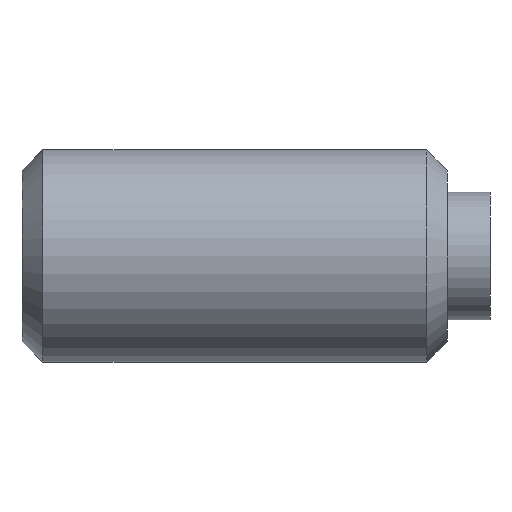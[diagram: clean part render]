
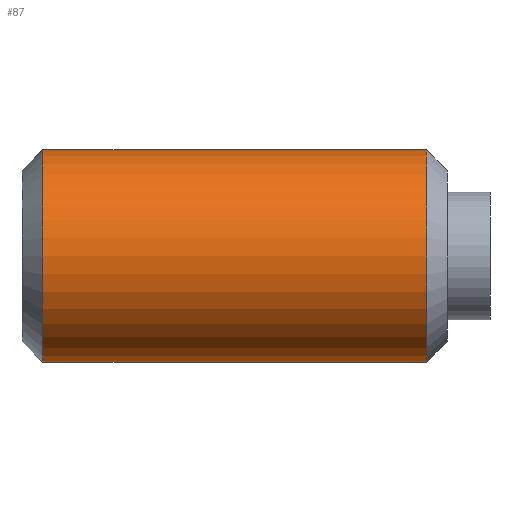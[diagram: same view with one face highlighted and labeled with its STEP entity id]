
A CAD part, left-side view. The second image highlights one B-rep face of the part: STEP entity #87.
In plain terms, the highlighted cylindrical face has radius 2.5 mm (diameter 5 mm), a full revolution.
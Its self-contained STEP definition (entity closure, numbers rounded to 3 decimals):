
#87 = ADVANCED_FACE( '', ( #118, #119 ), #120, .T. );
#118 = FACE_OUTER_BOUND( '', #152, .T. );
#119 = FACE_OUTER_BOUND( '', #153, .T. );
#120 = CYLINDRICAL_SURFACE( '', #154, 2.5 );
#152 = EDGE_LOOP( '', ( #238 ) );
#153 = EDGE_LOOP( '', ( #239 ) );
#154 = AXIS2_PLACEMENT_3D( '', #240, #241, #242 );
#238 = ORIENTED_EDGE( '', *, *, #270, .F. );
#239 = ORIENTED_EDGE( '', *, *, #271, .T. );
#240 = CARTESIAN_POINT( '', ( 0., 0., 0. ) );
#241 = DIRECTION( '', ( 0., 1., 0. ) );
#242 = DIRECTION( '', ( 0., 0., -1. ) );
#270 = EDGE_CURVE( '', #310, #310, #311, .T. );
#271 = EDGE_CURVE( '', #312, #312, #313, .T. );
#310 = VERTEX_POINT( '', #370 );
#311 = CIRCLE( '', #371, 2.5 );
#312 = VERTEX_POINT( '', #372 );
#313 = CIRCLE( '', #373, 2.5 );
#370 = CARTESIAN_POINT( '', ( 0., 1.491, -2.5 ) );
#371 = AXIS2_PLACEMENT_3D( '', #404, #405, #406 );
#372 = CARTESIAN_POINT( '', ( 0., 10.51, -2.5 ) );
#373 = AXIS2_PLACEMENT_3D( '', #407, #408, #409 );
#404 = CARTESIAN_POINT( '', ( 0., 1.491, 0. ) );
#405 = DIRECTION( '', ( 0., -1., 0. ) );
#406 = DIRECTION( '', ( 0., 0., -1. ) );
#407 = CARTESIAN_POINT( '', ( 0., 10.51, 0. ) );
#408 = DIRECTION( '', ( 0., -1., 0. ) );
#409 = DIRECTION( '', ( 0., 0., -1. ) );
